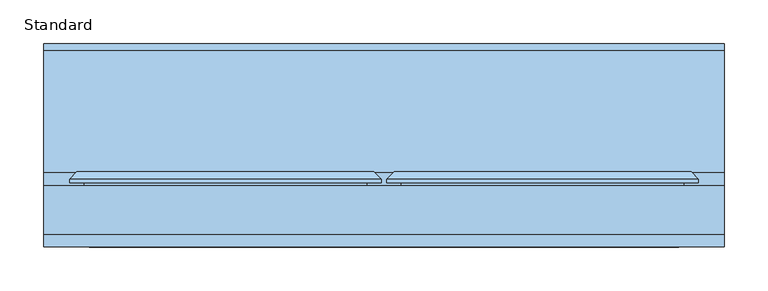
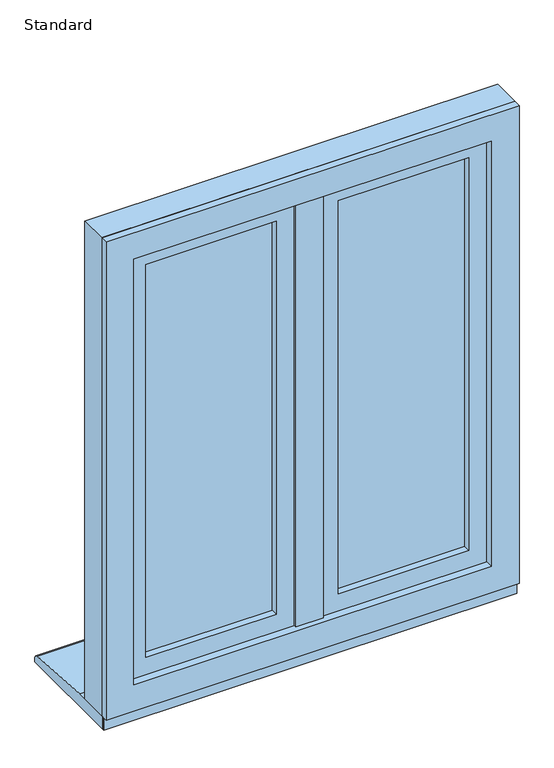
"""IFC4 building model written with IfcOpenShell, lengths in millimetres: window geometry, SMARTS_Alitherm600 : Standard."""

from ifc_helpers import new_model, si_unit, point, frame, frame_2d, origin, place, context, project, spatial, polyline, circle_curve, trimmed, segment, composite_curve, outline, extrude, faceted_brep, source, transform, mapped, element, save


def standard_f761ba24(model_context):
    return source(origin(), model_context, "Body", "SolidModel", [
        extrude(outline(polyline([(-9.4, 102.8298432), (9.4, 102.8298432), (9.4, 47.2458572), (-9.4, 47.2458572), (-9.4, 102.8298432)])), frame((0.0, 0.0, 670.8979117), z_axis=(0.0, 0.0, 1.0), x_axis=(1.0, 0.0, 0.0)), (0.0, 0.0, 1.0), 883.2041766),
        extrude(outline(polyline([(-25.9020883, 47.2458572), (25.9020883, 47.2458572), (25.9020883, 43.2798432), (-25.9020883, 43.2798432), (-25.9020883, 47.2458572)])), frame((0.0, 0.0, 687.4), z_axis=(0.0, 0.0, 1.0), x_axis=(1.0, 0.0, 0.0)), (0.0, 0.0, 1.0), 850.2),
        extrude(outline(polyline([(1516.6, -316.6), (708.4, -316.6), (708.4, -47.0), (1516.6, -47.0), (1516.6, -316.6)]), holes=[polyline([(1506.6, -57.0), (718.4, -57.0), (718.4, -306.6), (1506.6, -306.6), (1506.6, -57.0)])]), frame((0.0, 72.3211351, 0.0), z_axis=(0.0, 1.0, 0.0), x_axis=(0.0, 0.0, 1.0)), (0.0, 0.0, 1.0), 16.0),
        extrude(outline(polyline([(-316.6, 92.3211351), (-47.0, 92.3211351), (-47.0, 88.3211351), (-316.6, 88.3211351), (-316.6, 92.3211351)])), frame((0.0, 0.0, 708.4), z_axis=(0.0, 0.0, 1.0), x_axis=(1.0, 0.0, 0.0)), (0.0, 0.0, 1.0), 808.2),
        extrude(outline(polyline([(-316.6, 72.3211351), (-47.0, 72.3211351), (-47.0, 68.3211351), (-316.6, 68.3211351), (-316.6, 72.3211351)])), frame((0.0, 0.0, 708.4), z_axis=(0.0, 0.0, 1.0), x_axis=(1.0, 0.0, 0.0)), (0.0, 0.0, 1.0), 808.2),
        faceted_brep([(-46.6778853, 118.8818325, 1516.9221147), (-58.859976, 97.7818325, 1504.740024), (-304.740024, 97.7818325, 1504.740024), (-316.9221147, 118.8818325, 1516.9221147), (-41.9939506, 97.7818325, 1521.6060494), (-41.9939506, 118.8818325, 1521.6060494), (-321.6060494, 118.8818325, 1521.6060494), (-321.6060494, 97.7818325, 1521.6060494), (-304.740024, 97.7818325, 720.259976), (-316.9221147, 118.8818325, 708.0778853), (-321.6060494, 118.8818325, 703.3939506), (-321.6060494, 97.7818325, 703.3939506), (-58.859976, 97.7818325, 720.259976), (-46.6778853, 118.8818325, 708.0778853), (-41.9939506, 118.8818325, 703.3939506), (-41.9939506, 97.7818325, 703.3939506)], [[[0, 1, 2, 3]], [[4, 5, 6, 7]], [[3, 2, 8, 9]], [[7, 6, 10, 11]], [[9, 8, 12, 13]], [[11, 10, 14, 15]], [[13, 12, 1, 0]], [[5, 14, 10, 6], [3, 9, 13, 0]], [[15, 14, 5, 4]], [[7, 11, 15, 4], [1, 12, 8, 2]]]),
        extrude(outline(polyline([(681.552908, -343.447092), (681.552908, -20.152908), (1543.447092, -20.152908), (1543.447092, -343.447092), (681.552908, -343.447092)]), holes=[polyline([(1505.1, -305.1), (1505.1, -58.5), (719.9, -58.5), (719.9, -305.1), (1505.1, -305.1)])]), frame((0.0, 50.2798432, 0.0), z_axis=(0.0, 1.0, 0.0), x_axis=(0.0, 0.0, 1.0)), (0.0, 0.0, 1.0), 13.0853156),
        faceted_brep([(-321.6060494, 118.8818325, 1521.6060494), (-321.6060494, 63.3651588, 1521.6060494), (-321.6060494, 63.3651588, 703.3939506), (-321.6060494, 118.8818325, 703.3939506), (-41.9939506, 63.3651588, 703.3939506), (-41.9939506, 118.8818325, 703.3939506), (-41.9939506, 63.3651588, 1521.6060494), (-41.9939506, 118.8818325, 1521.6060494), (-360.3358988, 106.2818325, 1560.3358988), (-360.3358988, 110.3519831, 1560.3358988), (-360.3358988, 110.3519831, 664.6641012), (-360.3358988, 106.2818325, 664.6641012), (-3.2641012, 110.3519831, 664.6641012), (-3.2641012, 106.2818325, 664.6641012), (-3.2641012, 110.3519831, 1560.3358988), (-3.2641012, 106.2818325, 1560.3358988), (-343.7467657, 106.2818325, 1543.7467657), (-19.8532343, 106.2818325, 1543.7467657), (-19.8532343, 106.2818325, 681.2532343), (-343.7467657, 106.2818325, 681.2532343), (-351.8060494, 118.8818325, 1551.8060494), (-11.7939506, 118.8818325, 1551.8060494), (-11.7939506, 118.8818325, 673.1939506), (-351.8060494, 118.8818325, 673.1939506), (-343.7467657, 63.3651588, 1543.7467657), (-343.7467657, 63.3651588, 681.2532343), (-19.8532343, 63.3651588, 681.2532343), (-19.8532343, 63.3651588, 1543.7467657)], [[[0, 1, 2, 3]], [[3, 2, 4, 5]], [[5, 4, 6, 7]], [[7, 6, 1, 0]], [[8, 9, 10, 11]], [[11, 10, 12, 13]], [[13, 12, 14, 15]], [[11, 13, 15, 8], [16, 17, 18, 19]], [[15, 14, 9, 8]], [[20, 21, 22, 23], [3, 5, 7, 0]], [[24, 16, 19, 25]], [[25, 19, 18, 26]], [[26, 18, 17, 27]], [[25, 26, 27, 24], [1, 6, 4, 2]], [[27, 17, 16, 24]], [[9, 20, 23, 10]], [[10, 23, 22, 12]], [[12, 22, 21, 14]], [[14, 21, 20, 9]]]),
        extrude(outline(polyline([(1590.0, 390.0), (1590.0, -390.0), (635.0, -390.0), (635.0, 390.0), (1590.0, 390.0)]), holes=[polyline([(670.85, 354.15), (670.85, -354.15), (1554.15, -354.15), (1554.15, 354.15), (670.85, 354.15)])]), frame((0.0, 47.2798427, 0.0), z_axis=(0.0, 1.0, 0.0), x_axis=(0.0, 0.0, 1.0)), (0.0, 0.0, 1.0), 55.5500006),
        extrude(outline(polyline([(1590.0, 390.0), (1590.0, -390.0), (635.0, -390.0), (635.0, 390.0), (1590.0, 390.0)]), holes=[polyline([(687.35, 337.65), (687.35, -337.65), (1537.65, -337.65), (1537.65, 337.65), (687.35, 337.65)])]), frame((0.0, 32.8298432, 0.0), z_axis=(0.0, 1.0, 0.0), x_axis=(0.0, 0.0, 1.0)), (0.0, 0.0, 1.0), 14.4499994),
        extrude(outline(polyline([(1516.6, 47.0), (708.4, 47.0), (708.4, 316.6), (1516.6, 316.6), (1516.6, 47.0)]), holes=[polyline([(1506.6, 306.6), (718.4, 306.6), (718.4, 57.0), (1506.6, 57.0), (1506.6, 306.6)])]), frame((0.0, 72.3211351, 0.0), z_axis=(0.0, 1.0, 0.0), x_axis=(0.0, 0.0, 1.0)), (0.0, 0.0, 1.0), 16.0),
        extrude(outline(polyline([(47.0, 92.3211351), (316.6, 92.3211351), (316.6, 88.3211351), (47.0, 88.3211351), (47.0, 92.3211351)])), frame((0.0, 0.0, 708.4), z_axis=(0.0, 0.0, 1.0), x_axis=(1.0, 0.0, 0.0)), (0.0, 0.0, 1.0), 808.2),
        extrude(outline(polyline([(47.0, 72.3211351), (316.6, 72.3211351), (316.6, 68.3211351), (47.0, 68.3211351), (47.0, 72.3211351)])), frame((0.0, 0.0, 708.4), z_axis=(0.0, 0.0, 1.0), x_axis=(1.0, 0.0, 0.0)), (0.0, 0.0, 1.0), 808.2),
        faceted_brep([(316.9221147, 118.8818325, 1516.9221147), (304.740024, 97.7818325, 1504.740024), (58.859976, 97.7818325, 1504.740024), (46.6778853, 118.8818325, 1516.9221147), (321.6060494, 97.7818325, 1521.6060494), (321.6060494, 118.8818325, 1521.6060494), (41.9939506, 118.8818325, 1521.6060494), (41.9939506, 97.7818325, 1521.6060494), (58.859976, 97.7818325, 720.259976), (46.6778853, 118.8818325, 708.0778853), (41.9939506, 118.8818325, 703.3939506), (41.9939506, 97.7818325, 703.3939506), (304.740024, 97.7818325, 720.259976), (316.9221147, 118.8818325, 708.0778853), (321.6060494, 118.8818325, 703.3939506), (321.6060494, 97.7818325, 703.3939506)], [[[0, 1, 2, 3]], [[4, 5, 6, 7]], [[3, 2, 8, 9]], [[7, 6, 10, 11]], [[9, 8, 12, 13]], [[11, 10, 14, 15]], [[13, 12, 1, 0]], [[5, 14, 10, 6], [3, 9, 13, 0]], [[15, 14, 5, 4]], [[7, 11, 15, 4], [1, 12, 8, 2]]]),
        extrude(outline(polyline([(681.552908, 20.152908), (681.552908, 343.447092), (1543.447092, 343.447092), (1543.447092, 20.152908), (681.552908, 20.152908)]), holes=[polyline([(1505.1, 58.5), (1505.1, 305.1), (719.9, 305.1), (719.9, 58.5), (1505.1, 58.5)])]), frame((0.0, 50.2798432, 0.0), z_axis=(0.0, 1.0, 0.0), x_axis=(0.0, 0.0, 1.0)), (0.0, 0.0, 1.0), 13.0853156),
        faceted_brep([(41.9939506, 118.8818325, 1521.6060494), (41.9939506, 63.3651588, 1521.6060494), (41.9939506, 63.3651588, 703.3939506), (41.9939506, 118.8818325, 703.3939506), (321.6060494, 63.3651588, 703.3939506), (321.6060494, 118.8818325, 703.3939506), (321.6060494, 63.3651588, 1521.6060494), (321.6060494, 118.8818325, 1521.6060494), (3.2641012, 106.2818325, 1560.3358988), (3.2641012, 110.3519831, 1560.3358988), (3.2641012, 110.3519831, 664.6641012), (3.2641012, 106.2818325, 664.6641012), (360.3358988, 110.3519831, 664.6641012), (360.3358988, 106.2818325, 664.6641012), (360.3358988, 110.3519831, 1560.3358988), (360.3358988, 106.2818325, 1560.3358988), (19.8532343, 106.2818325, 1543.7467657), (343.7467657, 106.2818325, 1543.7467657), (343.7467657, 106.2818325, 681.2532343), (19.8532343, 106.2818325, 681.2532343), (11.7939506, 118.8818325, 1551.8060494), (351.8060494, 118.8818325, 1551.8060494), (351.8060494, 118.8818325, 673.1939506), (11.7939506, 118.8818325, 673.1939506), (19.8532343, 63.3651588, 1543.7467657), (19.8532343, 63.3651588, 681.2532343), (343.7467657, 63.3651588, 681.2532343), (343.7467657, 63.3651588, 1543.7467657)], [[[0, 1, 2, 3]], [[3, 2, 4, 5]], [[5, 4, 6, 7]], [[7, 6, 1, 0]], [[8, 9, 10, 11]], [[11, 10, 12, 13]], [[13, 12, 14, 15]], [[11, 13, 15, 8], [16, 17, 18, 19]], [[15, 14, 9, 8]], [[20, 21, 22, 23], [3, 5, 7, 0]], [[24, 16, 19, 25]], [[25, 19, 18, 26]], [[26, 18, 17, 27]], [[25, 26, 27, 24], [1, 6, 4, 2]], [[27, 17, 16, 24]], [[9, 20, 23, 10]], [[10, 23, 22, 12]], [[12, 22, 21, 14]], [[14, 21, 20, 9]]]),
        extrude(outline(polyline([(390.0, 43.2798432), (390.0, 40.7798432), (-390.0, 40.7798432), (-390.0, 43.2798432), (390.0, 43.2798432)])), frame((0.0, 0.0, 610.0), z_axis=(0.0, 0.0, 1.0), x_axis=(1.0, 0.0, 0.0)), (0.0, 0.0, 1.0), 31.0),
        extrude(outline(composite_curve([segment(polyline([(265.7798432, 610.0), (43.2798432, 610.0), (43.2798432, 635.0), (118.7798432, 635.0), (258.4770891, 625.9276664)]), True, "CONTINUOUS"), segment(trimmed(circle_curve(frame_2d((257.7798432, 617.9581088)), 8.0), [point((258.4770891, 625.9276664))], [point((265.7798432, 617.9581088))], False, "CARTESIAN"), True, "CONTINUOUS"), segment(polyline([(265.7798432, 617.9581088), (265.7798432, 610.0)]), True, "CONTINUOUS")], self_intersect=False)), frame((-390.0, 0.0, 0.0), z_axis=(1.0, 0.0, 0.0), x_axis=(0.0, 1.0, 0.0)), (0.0, 0.0, 1.0), 780.0),
    ])


if __name__ == "__main__":
    model = new_model("IFC4")
    model_context = context("Model", 3, world=origin())
    ifc_project = project(units=[si_unit("LENGTHUNIT", "METRE", prefix="MILLI")], contexts=[model_context])
    site = spatial("IfcSite", under=ifc_project)
    building = spatial("IfcBuilding", under=site)
    placement = place(None, origin())
    standard_shape = standard_f761ba24(model_context)
    element("IfcWindow", 1, ObjectType="SMARTS_Alitherm600 : Standard", at=placement, inside=building, context=model_context, shape_type="MappedRepresentation", body=[
        mapped(standard_shape, transform((0.0, 0.0, 0.0), x_axis=(1.0, 0.0, 0.0), y_axis=(0.0, 1.0, 0.0), z_axis=(0.0, 0.0, 1.0))),
    ])
    save(model, "model.ifc")
